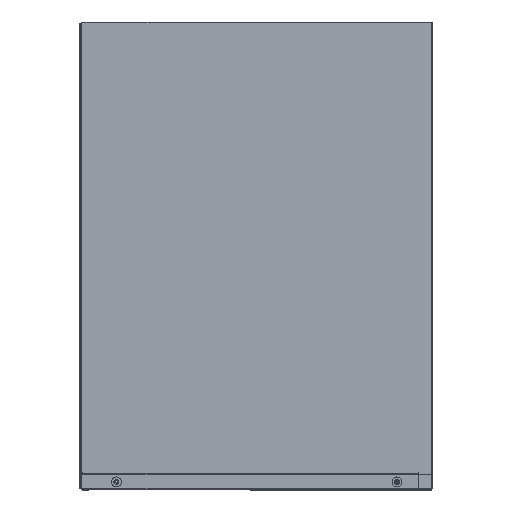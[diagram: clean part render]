
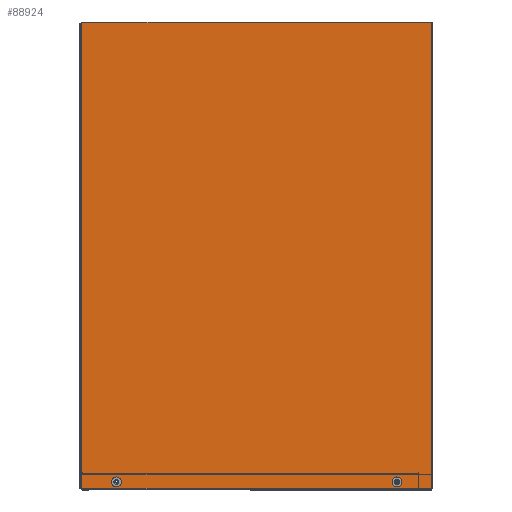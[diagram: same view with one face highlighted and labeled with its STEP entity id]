
A CAD part, left-side view. The second image highlights one B-rep face of the part: STEP entity #88924.
In plain terms, the highlighted planar face has unit normal (-1, 0, 0) as drawn and (1, 0, 0) by its records, which use the part's own axes.
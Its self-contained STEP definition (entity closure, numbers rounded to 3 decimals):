
#834=LINE('',#120882,#13070);
#863=LINE('',#120955,#13099);
#864=LINE('',#120957,#13100);
#865=LINE('',#120959,#13101);
#866=LINE('',#120961,#13102);
#867=LINE('',#120963,#13103);
#868=LINE('',#120965,#13104);
#869=LINE('',#120967,#13105);
#13070=VECTOR('',#99229,1000.);
#13099=VECTOR('',#99290,1000.);
#13100=VECTOR('',#99291,1000.);
#13101=VECTOR('',#99292,1000.);
#13102=VECTOR('',#99293,1000.);
#13103=VECTOR('',#99294,1000.);
#13104=VECTOR('',#99295,1000.);
#13105=VECTOR('',#99296,1000.);
#26210=ORIENTED_EDGE('',*,*,#50957,.F.);
#26211=ORIENTED_EDGE('',*,*,#50958,.F.);
#26212=ORIENTED_EDGE('',*,*,#50959,.F.);
#26213=ORIENTED_EDGE('',*,*,#50960,.T.);
#26214=ORIENTED_EDGE('',*,*,#50961,.T.);
#26215=ORIENTED_EDGE('',*,*,#50962,.F.);
#26216=ORIENTED_EDGE('',*,*,#50963,.F.);
#26217=ORIENTED_EDGE('',*,*,#50964,.F.);
#26218=ORIENTED_EDGE('',*,*,#50965,.F.);
#26219=ORIENTED_EDGE('',*,*,#50921,.T.);
#50921=EDGE_CURVE('',#63410,#63408,#834,.T.);
#50957=EDGE_CURVE('',#63436,#63436,#71586,.T.);
#50958=EDGE_CURVE('',#63437,#63437,#71587,.T.);
#50959=EDGE_CURVE('',#63438,#63408,#863,.F.);
#50960=EDGE_CURVE('',#63438,#63439,#864,.T.);
#50961=EDGE_CURVE('',#63439,#63440,#865,.F.);
#50962=EDGE_CURVE('',#63441,#63440,#866,.T.);
#50963=EDGE_CURVE('',#63442,#63441,#867,.F.);
#50964=EDGE_CURVE('',#63443,#63442,#868,.F.);
#50965=EDGE_CURVE('',#63410,#63443,#869,.T.);
#63408=VERTEX_POINT('',#120880);
#63410=VERTEX_POINT('',#120883);
#63436=VERTEX_POINT('',#120952);
#63437=VERTEX_POINT('',#120954);
#63438=VERTEX_POINT('',#120956);
#63439=VERTEX_POINT('',#120958);
#63440=VERTEX_POINT('',#120960);
#63441=VERTEX_POINT('',#120962);
#63442=VERTEX_POINT('',#120964);
#63443=VERTEX_POINT('',#120966);
#71586=CIRCLE('',#93590,6.001);
#71587=CIRCLE('',#93591,6.001);
#72104=EDGE_LOOP('',(#26210));
#72105=EDGE_LOOP('',(#26211));
#72106=EDGE_LOOP('',(#26212,#26213,#26214,#26215,#26216,#26217,#26218,#26219));
#78568=FACE_BOUND('',#72104,.T.);
#78569=FACE_BOUND('',#72105,.T.);
#78570=FACE_BOUND('',#72106,.T.);
#84738=PLANE('',#93589);
#88924=ADVANCED_FACE('',(#78568,#78569,#78570),#84738,.F.);
#93589=AXIS2_PLACEMENT_3D('',#120950,#99284,#99285);
#93590=AXIS2_PLACEMENT_3D('',#120951,#99286,#99287);
#93591=AXIS2_PLACEMENT_3D('',#120953,#99288,#99289);
#99229=DIRECTION('',(0.,-1.,0.));
#99284=DIRECTION('',(-1.,0.,0.));
#99285=DIRECTION('',(0.,0.,1.));
#99286=DIRECTION('',(1.,0.,0.));
#99287=DIRECTION('',(0.,-1.,0.));
#99288=DIRECTION('',(1.,0.,0.));
#99289=DIRECTION('',(0.,-1.,0.));
#99290=DIRECTION('',(0.,0.,-1.));
#99291=DIRECTION('',(0.,1.,0.));
#99292=DIRECTION('',(0.,0.,1.));
#99293=DIRECTION('',(0.,-1.,0.));
#99294=DIRECTION('',(0.,0.,1.));
#99295=DIRECTION('',(0.,1.,0.));
#99296=DIRECTION('',(0.,0.,-1.));
#120880=CARTESIAN_POINT('',(342.1,-211.748,564.998));
#120882=CARTESIAN_POINT('',(342.1,211.75,564.998));
#120883=CARTESIAN_POINT('',(342.1,211.748,564.998));
#120950=CARTESIAN_POINT('',(342.1,211.75,565.));
#120951=CARTESIAN_POINT('',(342.1,-170.,8.542));
#120952=CARTESIAN_POINT('',(342.1,-176.001,8.542));
#120953=CARTESIAN_POINT('',(342.1,170.,8.542));
#120954=CARTESIAN_POINT('',(342.1,164.,8.542));
#120955=CARTESIAN_POINT('',(342.1,-211.748,0.));
#120956=CARTESIAN_POINT('',(342.1,-211.748,0.804));
#120957=CARTESIAN_POINT('',(342.1,211.75,0.804));
#120958=CARTESIAN_POINT('',(342.1,-211.746,0.804));
#120959=CARTESIAN_POINT('',(342.1,-211.746,565.));
#120960=CARTESIAN_POINT('',(342.1,-211.746,0.802));
#120961=CARTESIAN_POINT('',(342.1,211.75,0.802));
#120962=CARTESIAN_POINT('',(342.1,211.746,0.802));
#120963=CARTESIAN_POINT('',(342.1,211.746,565.));
#120964=CARTESIAN_POINT('',(342.1,211.746,0.804));
#120965=CARTESIAN_POINT('',(342.1,211.75,0.804));
#120966=CARTESIAN_POINT('',(342.1,211.748,0.804));
#120967=CARTESIAN_POINT('',(342.1,211.748,564.998));
